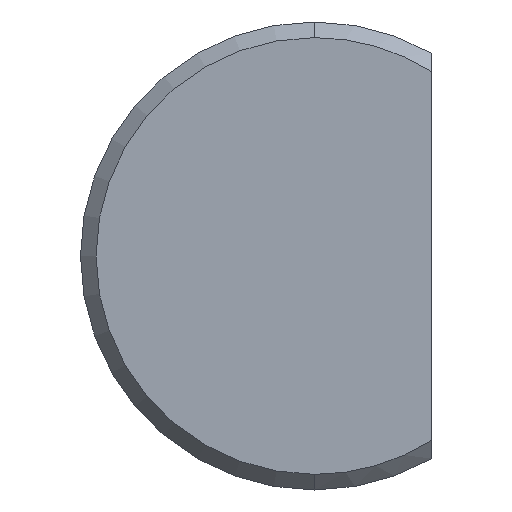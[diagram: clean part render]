
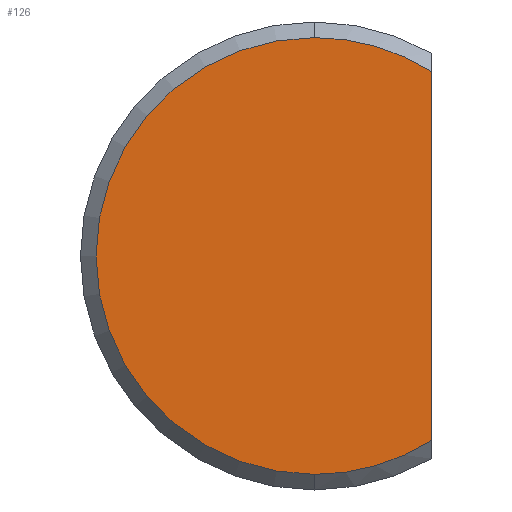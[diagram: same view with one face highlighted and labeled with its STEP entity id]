
A CAD part, front view. The second image highlights one B-rep face of the part: STEP entity #126.
In plain terms, the highlighted planar face has unit normal (0, -1, 0).
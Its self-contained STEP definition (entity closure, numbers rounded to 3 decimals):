
#10 = DIRECTION ( 'NONE',  ( 0., 0., -1. ) ) ;
#51 = VERTEX_POINT ( 'NONE', #491 ) ;
#52 = CARTESIAN_POINT ( 'NONE',  ( 0., 0., 0. ) ) ;
#53 = CARTESIAN_POINT ( 'NONE',  ( 0., 0., 0. ) ) ;
#59 = CARTESIAN_POINT ( 'NONE',  ( 0., 0., -2.8 ) ) ;
#70 = DIRECTION ( 'NONE',  ( 0., 0., -1. ) ) ;
#97 = DIRECTION ( 'NONE',  ( 0., -1., 0. ) ) ;
#100 = EDGE_LOOP ( 'NONE', ( #105, #357, #226, #150 ) ) ;
#105 = ORIENTED_EDGE ( 'NONE', *, *, #644, .T. ) ;
#110 = CIRCLE ( 'NONE', #452, 2.8 ) ;
#126 = ADVANCED_FACE ( 'NONE', ( #325 ), #276, .T. ) ;
#129 = CARTESIAN_POINT ( 'NONE',  ( 1.5, 0., -2.598 ) ) ;
#147 = CIRCLE ( 'NONE', #630, 2.8 ) ;
#150 = ORIENTED_EDGE ( 'NONE', *, *, #295, .T. ) ;
#184 = CARTESIAN_POINT ( 'NONE',  ( 0., 0., 0. ) ) ;
#221 = AXIS2_PLACEMENT_3D ( 'NONE', #343, #566, #10 ) ;
#226 = ORIENTED_EDGE ( 'NONE', *, *, #340, .T. ) ;
#229 = DIRECTION ( 'NONE',  ( 0., -1., 0. ) ) ;
#264 = DIRECTION ( 'NONE',  ( 0., 0., -1. ) ) ;
#276 = PLANE ( 'NONE',  #221 ) ;
#295 = EDGE_CURVE ( 'NONE', #320, #51, #620, .T. ) ;
#320 = VERTEX_POINT ( 'NONE', #342 ) ;
#325 = FACE_OUTER_BOUND ( 'NONE', #100, .T. ) ;
#340 = EDGE_CURVE ( 'NONE', #696, #320, #572, .T. ) ;
#342 = CARTESIAN_POINT ( 'NONE',  ( 1.5, 0., -2.364 ) ) ;
#343 = CARTESIAN_POINT ( 'NONE',  ( 0., 0., 0. ) ) ;
#357 = ORIENTED_EDGE ( 'NONE', *, *, #430, .T. ) ;
#408 = VERTEX_POINT ( 'NONE', #594 ) ;
#409 = DIRECTION ( 'NONE',  ( 0., 0., 1. ) ) ;
#430 = EDGE_CURVE ( 'NONE', #408, #696, #110, .T. ) ;
#452 = AXIS2_PLACEMENT_3D ( 'NONE', #53, #97, #590 ) ;
#491 = CARTESIAN_POINT ( 'NONE',  ( 1.5, 0., 2.364 ) ) ;
#566 = DIRECTION ( 'NONE',  ( 0., -1., 0. ) ) ;
#572 = CIRCLE ( 'NONE', #629, 2.8 ) ;
#590 = DIRECTION ( 'NONE',  ( 0., 0., -1. ) ) ;
#594 = CARTESIAN_POINT ( 'NONE',  ( 0., 0., 2.8 ) ) ;
#620 = LINE ( 'NONE', #129, #641 ) ;
#629 = AXIS2_PLACEMENT_3D ( 'NONE', #184, #229, #70 ) ;
#630 = AXIS2_PLACEMENT_3D ( 'NONE', #52, #657, #264 ) ;
#641 = VECTOR ( 'NONE', #409, 1000. ) ;
#644 = EDGE_CURVE ( 'NONE', #51, #408, #147, .T. ) ;
#657 = DIRECTION ( 'NONE',  ( 0., -1., 0. ) ) ;
#696 = VERTEX_POINT ( 'NONE', #59 ) ;
